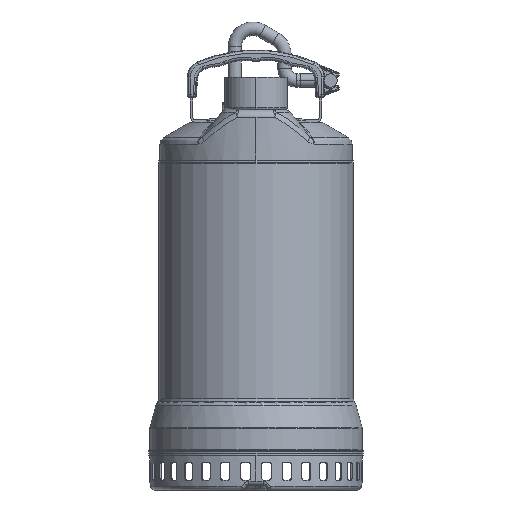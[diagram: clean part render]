
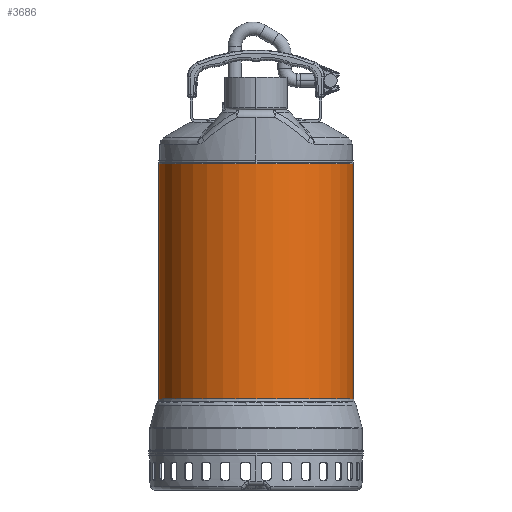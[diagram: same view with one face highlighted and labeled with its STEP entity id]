
A CAD part, front view. The second image highlights one B-rep face of the part: STEP entity #3686.
In plain terms, the highlighted cylindrical face has radius 80.25 mm (diameter 160.5 mm), a partial arc.
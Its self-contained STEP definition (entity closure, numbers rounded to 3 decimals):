
#148 = CARTESIAN_POINT ( 'NONE',  ( 239.79, 148.847, -1005.026 ) ) ;
#1375 = CARTESIAN_POINT ( 'NONE',  ( 79.29, 148.847, -811.192 ) ) ;
#1686 = CARTESIAN_POINT ( 'NONE',  ( 79.29, 148.847, -1005.026 ) ) ;
#2262 = EDGE_CURVE ( 'NONE', #2773, #27125, #18071, .T. ) ;
#2773 = VERTEX_POINT ( 'NONE', #1686 ) ;
#3307 = CARTESIAN_POINT ( 'NONE',  ( 159.54, 68.597, -811.192 ) ) ;
#3686 = ADVANCED_FACE ( 'NONE', ( #8630 ), #32041, .T. ) ;
#4896 = DIRECTION ( 'NONE',  ( -1., 0., 0. ) ) ;
#5820 = DIRECTION ( 'NONE',  ( -1., 0., 0. ) ) ;
#6397 = VECTOR ( 'NONE', #39060, 1000. ) ;
#7502 = EDGE_CURVE ( 'NONE', #2773, #18912, #7882, .T. ) ;
#7882 = CIRCLE ( 'NONE', #40147, 80.25 ) ;
#8630 = FACE_OUTER_BOUND ( 'NONE', #27953, .T. ) ;
#9339 = EDGE_CURVE ( 'NONE', #21954, #42193, #29453, .T. ) ;
#10716 = VECTOR ( 'NONE', #35378, 1000. ) ;
#12857 = CARTESIAN_POINT ( 'NONE',  ( 239.79, 148.847, -858.781 ) ) ;
#16818 = CARTESIAN_POINT ( 'NONE',  ( 79.29, 148.847, -858.781 ) ) ;
#18071 = LINE ( 'NONE', #16818, #6397 ) ;
#18912 = VERTEX_POINT ( 'NONE', #148 ) ;
#21954 = VERTEX_POINT ( 'NONE', #3307 ) ;
#23580 = ORIENTED_EDGE ( 'NONE', *, *, #43894, .F. ) ;
#24436 = DIRECTION ( 'NONE',  ( 0., 0., 1. ) ) ;
#24460 = CARTESIAN_POINT ( 'NONE',  ( 159.54, 148.847, -858.781 ) ) ;
#26137 = ORIENTED_EDGE ( 'NONE', *, *, #7502, .T. ) ;
#27125 = VERTEX_POINT ( 'NONE', #1375 ) ;
#27953 = EDGE_LOOP ( 'NONE', ( #26137, #29446, #37820, #23580, #45196 ) ) ;
#28884 = AXIS2_PLACEMENT_3D ( 'NONE', #31107, #39292, #4896 ) ;
#29446 = ORIENTED_EDGE ( 'NONE', *, *, #42655, .T. ) ;
#29453 = CIRCLE ( 'NONE', #28884, 80.25 ) ;
#31107 = CARTESIAN_POINT ( 'NONE',  ( 159.54, 148.847, -811.192 ) ) ;
#32000 = CARTESIAN_POINT ( 'NONE',  ( 239.79, 148.847, -811.192 ) ) ;
#32041 = CYLINDRICAL_SURFACE ( 'NONE', #41940, 80.25 ) ;
#33995 = CIRCLE ( 'NONE', #43285, 80.25 ) ;
#34664 = LINE ( 'NONE', #12857, #10716 ) ;
#35378 = DIRECTION ( 'NONE',  ( 0., 0., 1. ) ) ;
#35384 = DIRECTION ( 'NONE',  ( 0., 0., 1. ) ) ;
#37820 = ORIENTED_EDGE ( 'NONE', *, *, #9339, .F. ) ;
#38654 = DIRECTION ( 'NONE',  ( -1., 0., 0. ) ) ;
#39060 = DIRECTION ( 'NONE',  ( 0., 0., 1. ) ) ;
#39292 = DIRECTION ( 'NONE',  ( 0., 0., 1. ) ) ;
#39346 = CARTESIAN_POINT ( 'NONE',  ( 159.54, 148.847, -811.192 ) ) ;
#40147 = AXIS2_PLACEMENT_3D ( 'NONE', #46814, #35384, #38654 ) ;
#41940 = AXIS2_PLACEMENT_3D ( 'NONE', #24460, #46712, #5820 ) ;
#42193 = VERTEX_POINT ( 'NONE', #32000 ) ;
#42655 = EDGE_CURVE ( 'NONE', #18912, #42193, #34664, .T. ) ;
#43081 = DIRECTION ( 'NONE',  ( -1., 0., 0. ) ) ;
#43285 = AXIS2_PLACEMENT_3D ( 'NONE', #39346, #24436, #43081 ) ;
#43894 = EDGE_CURVE ( 'NONE', #27125, #21954, #33995, .T. ) ;
#45196 = ORIENTED_EDGE ( 'NONE', *, *, #2262, .F. ) ;
#46712 = DIRECTION ( 'NONE',  ( 0., 0., 1. ) ) ;
#46814 = CARTESIAN_POINT ( 'NONE',  ( 159.54, 148.847, -1005.026 ) ) ;
